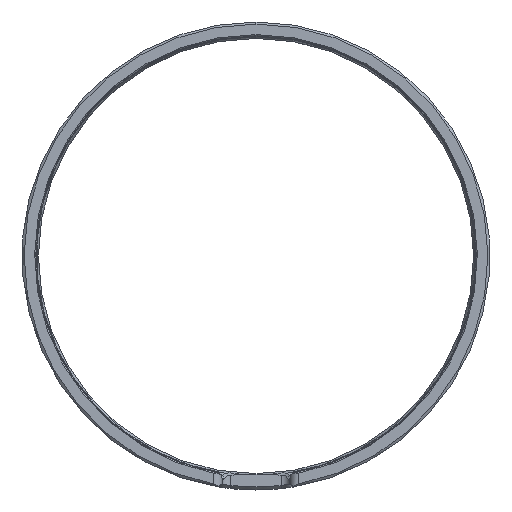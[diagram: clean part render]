
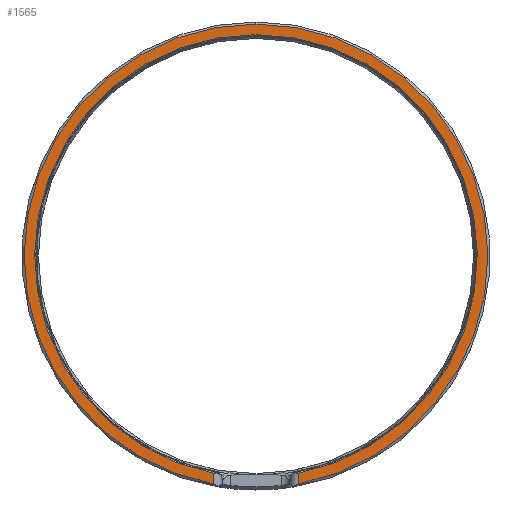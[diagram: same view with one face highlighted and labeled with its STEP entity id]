
A CAD part, left-side view. The second image highlights one B-rep face of the part: STEP entity #1565.
In plain terms, the highlighted planar face has unit normal (-1, 0, 0).
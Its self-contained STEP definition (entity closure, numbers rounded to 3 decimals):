
#153 = ORIENTED_EDGE ( 'NONE', *, *, #810, .F. ) ;
#180 = CARTESIAN_POINT ( 'NONE',  ( -300., 0., 55.5 ) ) ;
#810 = EDGE_CURVE ( 'NONE', #4517, #2761, #5422, .T. ) ;
#1066 = CARTESIAN_POINT ( 'NONE',  ( -300., 0., 0. ) ) ;
#1121 = LINE ( 'NONE', #5384, #2908 ) ;
#1197 = EDGE_CURVE ( 'NONE', #1493, #4721, #1121, .T. ) ;
#1493 = VERTEX_POINT ( 'NONE', #3609 ) ;
#1565 = ADVANCED_FACE ( 'NONE', ( #4797 ), #2671, .T. ) ;
#1639 = CARTESIAN_POINT ( 'NONE',  ( -300., 0., 0. ) ) ;
#1695 = DIRECTION ( 'NONE',  ( -1., 0., 0. ) ) ;
#1702 = DIRECTION ( 'NONE',  ( -1., 0., 0. ) ) ;
#2163 = EDGE_CURVE ( 'NONE', #4517, #3292, #5723, .T. ) ;
#2671 = PLANE ( 'NONE',  #4840 ) ;
#2761 = VERTEX_POINT ( 'NONE', #4088 ) ;
#2878 = CARTESIAN_POINT ( 'NONE',  ( -300., -10.2, -54.555 ) ) ;
#2908 = VECTOR ( 'NONE', #3467, 1000. ) ;
#2936 = AXIS2_PLACEMENT_3D ( 'NONE', #5881, #1702, #4352 ) ;
#2941 = EDGE_CURVE ( 'NONE', #3292, #1493, #5547, .T. ) ;
#3078 = DIRECTION ( 'NONE',  ( 0., 0., 1. ) ) ;
#3286 = CARTESIAN_POINT ( 'NONE',  ( -300., 10.2, -51.984 ) ) ;
#3292 = VERTEX_POINT ( 'NONE', #180 ) ;
#3467 = DIRECTION ( 'NONE',  ( 0., 0., 1. ) ) ;
#3546 = DIRECTION ( 'NONE',  ( -1., 0., 0. ) ) ;
#3609 = CARTESIAN_POINT ( 'NONE',  ( -300., 10.2, -54.555 ) ) ;
#3755 = ORIENTED_EDGE ( 'NONE', *, *, #2941, .T. ) ;
#3783 = ORIENTED_EDGE ( 'NONE', *, *, #1197, .T. ) ;
#3997 = CARTESIAN_POINT ( 'NONE',  ( -300., 0., 0. ) ) ;
#4088 = CARTESIAN_POINT ( 'NONE',  ( -300., -10.2, -51.984 ) ) ;
#4352 = DIRECTION ( 'NONE',  ( 0., 0., 1. ) ) ;
#4370 = ORIENTED_EDGE ( 'NONE', *, *, #2163, .T. ) ;
#4377 = AXIS2_PLACEMENT_3D ( 'NONE', #1066, #1695, #3078 ) ;
#4417 = DIRECTION ( 'NONE',  ( 0., 0., 1. ) ) ;
#4517 = VERTEX_POINT ( 'NONE', #2878 ) ;
#4564 = AXIS2_PLACEMENT_3D ( 'NONE', #1639, #5396, #4417 ) ;
#4721 = VERTEX_POINT ( 'NONE', #3286 ) ;
#4797 = FACE_OUTER_BOUND ( 'NONE', #5010, .T. ) ;
#4822 = ORIENTED_EDGE ( 'NONE', *, *, #5942, .F. ) ;
#4840 = AXIS2_PLACEMENT_3D ( 'NONE', #3997, #3546, #5466 ) ;
#4867 = DIRECTION ( 'NONE',  ( 0., 0., 1. ) ) ;
#5010 = EDGE_LOOP ( 'NONE', ( #153, #4370, #3755, #3783, #4822 ) ) ;
#5384 = CARTESIAN_POINT ( 'NONE',  ( -300., 10.2, -56. ) ) ;
#5396 = DIRECTION ( 'NONE',  ( -1., 0., 0. ) ) ;
#5422 = LINE ( 'NONE', #5779, #5436 ) ;
#5436 = VECTOR ( 'NONE', #4867, 1000. ) ;
#5466 = DIRECTION ( 'NONE',  ( 0., 0., -1. ) ) ;
#5547 = CIRCLE ( 'NONE', #4377, 55.5 ) ;
#5558 = CIRCLE ( 'NONE', #2936, 52.975 ) ;
#5723 = CIRCLE ( 'NONE', #4564, 55.5 ) ;
#5779 = CARTESIAN_POINT ( 'NONE',  ( -300., -10.2, -56. ) ) ;
#5881 = CARTESIAN_POINT ( 'NONE',  ( -300., 0., 0. ) ) ;
#5942 = EDGE_CURVE ( 'NONE', #2761, #4721, #5558, .T. ) ;
